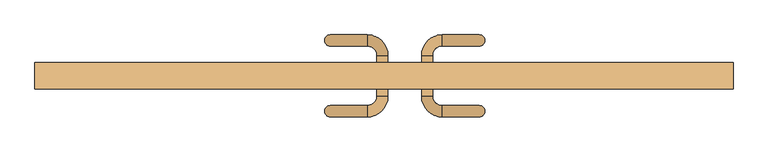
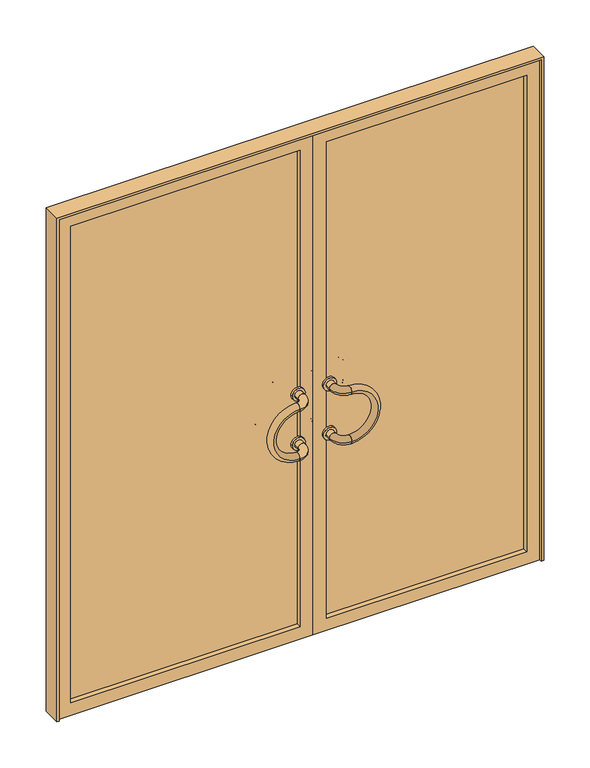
"""IFC4 building model written with IfcOpenShell, lengths in millimetres: door geometry, Tierce Vitrée grand vantail 93 : Double Vitrée."""

from ifc_helpers import new_model, si_unit, point, frame, frame_2d, origin, place, context, project, spatial, polyline, circle_curve, ellipse_curve, trimmed, segment, composite_curve, outline, extrude, source, transform, mapped, element, save
from ifc_brep_helpers import plane_surface, revolved_surface, advanced_brep


def door_b7be11e8(model_context):
    return source(origin(), model_context, "Body", "SolidModel", [
        extrude(outline(composite_curve([segment(trimmed(circle_curve(frame_2d((1000.0, -4.5)), 25.0), [point((1000.0, 20.5))], [point((1000.0, -29.5))], False, "CARTESIAN"), True, "CONTINUOUS"), segment(trimmed(circle_curve(frame_2d((1000.0, -4.5)), 25.0), [point((1000.0, -29.5))], [point((1000.0, 20.5))], False, "CARTESIAN"), True, "CONTINUOUS")], self_intersect=False), holes=[composite_curve([segment(trimmed(circle_curve(frame_2d((1000.0, -4.5)), 15.0), [point((1000.0, 10.5))], [point((1000.0, -19.5))], True, "CARTESIAN"), True, "CONTINUOUS"), segment(trimmed(circle_curve(frame_2d((1000.0, -4.5)), 15.0), [point((1000.0, -19.5))], [point((1000.0, 10.5))], True, "CARTESIAN"), True, "CONTINUOUS")], self_intersect=False)]), frame((0.0, 35.0, 0.0), z_axis=(0.0, 1.0, 0.0), x_axis=(0.0, 0.0, 1.0)), (0.0, 0.0, 1.0), 8.0),
        extrude(outline(composite_curve([segment(trimmed(circle_curve(frame_2d((800.0, -4.5)), 25.0), [point((800.0, 20.5))], [point((800.0, -29.5))], False, "CARTESIAN"), True, "CONTINUOUS"), segment(trimmed(circle_curve(frame_2d((800.0, -4.5)), 25.0), [point((800.0, -29.5))], [point((800.0, 20.5))], False, "CARTESIAN"), True, "CONTINUOUS")], self_intersect=False), holes=[composite_curve([segment(trimmed(circle_curve(frame_2d((800.0, -4.5)), 15.0), [point((800.0, 10.5))], [point((800.0, -19.5))], True, "CARTESIAN"), True, "CONTINUOUS"), segment(trimmed(circle_curve(frame_2d((800.0, -4.5)), 15.0), [point((800.0, -19.5))], [point((800.0, 10.5))], True, "CARTESIAN"), True, "CONTINUOUS")], self_intersect=False)]), frame((0.0, 35.0, 0.0), z_axis=(0.0, 1.0, 0.0), x_axis=(0.0, 0.0, 1.0)), (0.0, 0.0, 1.0), 8.0),
        extrude(outline(composite_curve([segment(trimmed(circle_curve(frame_2d((1000.0, -4.5)), 25.0), [point((1000.0, 20.5))], [point((1000.0, -29.5))], False, "CARTESIAN"), True, "CONTINUOUS"), segment(trimmed(circle_curve(frame_2d((1000.0, -4.5)), 25.0), [point((1000.0, -29.5))], [point((1000.0, 20.5))], False, "CARTESIAN"), True, "CONTINUOUS")], self_intersect=False), holes=[composite_curve([segment(trimmed(circle_curve(frame_2d((1000.0, -4.5)), 15.0), [point((1000.0, 10.5))], [point((1000.0, -19.5))], True, "CARTESIAN"), True, "CONTINUOUS"), segment(trimmed(circle_curve(frame_2d((1000.0, -4.5)), 15.0), [point((1000.0, -19.5))], [point((1000.0, 10.5))], True, "CARTESIAN"), True, "CONTINUOUS")], self_intersect=False)]), frame((0.0, -23.0, 0.0), z_axis=(0.0, 1.0, 0.0), x_axis=(0.0, 0.0, 1.0)), (0.0, 0.0, 1.0), 8.0),
        extrude(outline(composite_curve([segment(trimmed(circle_curve(frame_2d((800.0, -4.5)), 25.0), [point((800.0, 20.5))], [point((800.0, -29.5))], False, "CARTESIAN"), True, "CONTINUOUS"), segment(trimmed(circle_curve(frame_2d((800.0, -4.5)), 25.0), [point((800.0, -29.5))], [point((800.0, 20.5))], False, "CARTESIAN"), True, "CONTINUOUS")], self_intersect=False), holes=[composite_curve([segment(trimmed(circle_curve(frame_2d((800.0, -4.5)), 15.0), [point((800.0, 10.5))], [point((800.0, -19.5))], True, "CARTESIAN"), True, "CONTINUOUS"), segment(trimmed(circle_curve(frame_2d((800.0, -4.5)), 15.0), [point((800.0, -19.5))], [point((800.0, 10.5))], True, "CARTESIAN"), True, "CONTINUOUS")], self_intersect=False)]), frame((0.0, -23.0, 0.0), z_axis=(0.0, 1.0, 0.0), x_axis=(0.0, 0.0, 1.0)), (0.0, 0.0, 1.0), 8.0),
        advanced_brep(
        [(-44.5, 120.0, 1000.0), (-44.5, 90.0, 1000.0), (-44.5, 120.0, 800.0), (-44.5, 90.0, 800.0)],
        [
            (0, 1, circle_curve(frame((-44.5, 105.0, 1000.0), z_axis=(1.0, 0.0, 0.0), x_axis=(0.0, -1.0, 0.0)), 15.0)),
            (1, 0, circle_curve(frame((-44.5, 105.0, 1000.0), z_axis=(1.0, 0.0, 0.0), x_axis=(0.0, -1.0, 0.0)), 15.0)),
            (2, 3, circle_curve(frame((-44.5, 105.0, 800.0), z_axis=(1.0, 0.0, 0.0), x_axis=(0.0, -1.0, 0.0)), 15.0)),
            (3, 2, circle_curve(frame((-44.5, 105.0, 800.0), z_axis=(1.0, 0.0, 0.0), x_axis=(0.0, -1.0, 0.0)), 15.0)),
            (2, 0, circle_curve(frame((-44.5, 120.0, 900.0), z_axis=(0.0, 1.0, 0.0), x_axis=(0.0, 0.0, 1.0)), 100.0)),
            (1, 3, circle_curve(frame((-44.5, 90.0, 900.0), z_axis=(0.0, -1.0, 0.0), x_axis=(0.0, 0.0, 1.0)), 100.0)),
        ],
        [
            plane_surface(frame((-44.5, 105.0, 900.0), z_axis=(1.0, 0.0, 0.0), x_axis=(0.0, 0.0, 1.0))),
            plane_surface(frame((-44.5, 105.0, 900.0), z_axis=(1.0, 0.0, 0.0), x_axis=(0.0, 0.0, -1.0))),
            revolved_surface(trimmed(ellipse_curve(frame((-44.5, 105.0, 1000.0), z_axis=(-1.0, 0.0, 0.0), x_axis=(0.0, -1.0, 0.0)), 15.0, 15.0), [point((-44.5, 120.0, 1000.0))], [point((-44.5, 90.0, 1000.0))], True, "CARTESIAN"), (-44.5, 105.0, 900.0), (0.0, 1.0, 0.0)),
            revolved_surface(trimmed(ellipse_curve(frame((-44.5, 105.0, 1000.0), z_axis=(-1.0, 0.0, 0.0), x_axis=(0.0, -1.0, 0.0)), 15.0, 15.0), [point((-44.5, 90.0, 1000.0))], [point((-44.5, 120.0, 1000.0))], True, "CARTESIAN"), (-44.5, 105.0, 900.0), (0.0, 1.0, 0.0)),
        ],
        [
            (0, [[1, 2]]),
            (1, [[3, 4]]),
            (2, [[-3, 5, -2, 6]]),
            (3, [[-4, -6, -1, -5]]),
        ],
    ),
        advanced_brep(
        [(-19.5, 65.0, 1000.0), (10.5, 65.0, 1000.0), (-44.5, 90.0, 1000.0), (-44.5, 120.0, 1000.0)],
        [
            (0, 1, circle_curve(frame((-4.5, 65.0, 1000.0), z_axis=(0.0, -1.0, 0.0), x_axis=(1.0, 0.0, 0.0)), 15.0)),
            (1, 0, circle_curve(frame((-4.5, 65.0, 1000.0), z_axis=(0.0, -1.0, 0.0), x_axis=(1.0, 0.0, 0.0)), 15.0)),
            (2, 3, circle_curve(frame((-44.5, 105.0, 1000.0), z_axis=(-1.0, 0.0, 0.0), x_axis=(0.0, 1.0, 0.0)), 15.0)),
            (3, 2, circle_curve(frame((-44.5, 105.0, 1000.0), z_axis=(-1.0, 0.0, 0.0), x_axis=(0.0, 1.0, 0.0)), 15.0)),
            (2, 0, circle_curve(frame((-44.5, 65.0, 1000.0), z_axis=(0.0, 0.0, -1.0), x_axis=(1.0, 0.0, 0.0)), 25.0)),
            (1, 3, circle_curve(frame((-44.5, 65.0, 1000.0), z_axis=(0.0, 0.0, 1.0), x_axis=(1.0, 0.0, 0.0)), 55.0)),
        ],
        [
            plane_surface(frame((-44.5, 65.0, 1000.0), z_axis=(0.0, -1.0, 0.0), x_axis=(1.0, 0.0, 0.0))),
            plane_surface(frame((-44.5, 65.0, 1000.0), z_axis=(-1.0, 0.0, 0.0), x_axis=(0.0, 1.0, 0.0))),
            revolved_surface(trimmed(ellipse_curve(frame((-4.5, 65.0, 1000.0), z_axis=(0.0, 1.0, 0.0), x_axis=(1.0, 0.0, 0.0)), 15.0, 15.0), [point((-19.5, 65.0, 1000.0))], [point((10.5, 65.0, 1000.0))], True, "CARTESIAN"), (-44.5, 65.0, 1000.0), (0.0, 0.0, -1.0)),
            revolved_surface(trimmed(ellipse_curve(frame((-4.5, 65.0, 1000.0), z_axis=(0.0, 1.0, 0.0), x_axis=(1.0, 0.0, 0.0)), 15.0, 15.0), [point((10.5, 65.0, 1000.0))], [point((-19.5, 65.0, 1000.0))], True, "CARTESIAN"), (-44.5, 65.0, 1000.0), (0.0, 0.0, -1.0)),
        ],
        [
            (0, [[1, 2]]),
            (1, [[3, 4]]),
            (2, [[-3, 5, -2, 6]]),
            (3, [[-4, -6, -1, -5]]),
        ],
    ),
        advanced_brep(
        [(-19.5, 65.0, 800.0), (10.5, 65.0, 800.0), (-44.5, 90.0, 800.0), (-44.5, 120.0, 800.0)],
        [
            (0, 1, circle_curve(frame((-4.5, 65.0, 800.0), z_axis=(0.0, -1.0, 0.0), x_axis=(1.0, 0.0, 0.0)), 15.0)),
            (1, 0, circle_curve(frame((-4.5, 65.0, 800.0), z_axis=(0.0, -1.0, 0.0), x_axis=(1.0, 0.0, 0.0)), 15.0)),
            (2, 3, circle_curve(frame((-44.5, 105.0, 800.0), z_axis=(-1.0, 0.0, 0.0), x_axis=(0.0, 1.0, 0.0)), 15.0)),
            (3, 2, circle_curve(frame((-44.5, 105.0, 800.0), z_axis=(-1.0, 0.0, 0.0), x_axis=(0.0, 1.0, 0.0)), 15.0)),
            (2, 0, circle_curve(frame((-44.5, 65.0, 800.0), z_axis=(0.0, 0.0, -1.0), x_axis=(1.0, 0.0, 0.0)), 25.0)),
            (1, 3, circle_curve(frame((-44.5, 65.0, 800.0), z_axis=(0.0, 0.0, 1.0), x_axis=(1.0, 0.0, 0.0)), 55.0)),
        ],
        [
            plane_surface(frame((-44.5, 65.0, 1000.0), z_axis=(0.0, -1.0, 0.0), x_axis=(1.0, 0.0, 0.0))),
            plane_surface(frame((-44.5, 65.0, 1000.0), z_axis=(-1.0, 0.0, 0.0), x_axis=(0.0, 1.0, 0.0))),
            revolved_surface(trimmed(ellipse_curve(frame((-4.5, 65.0, 800.0), z_axis=(0.0, 1.0, 0.0), x_axis=(1.0, 0.0, 0.0)), 15.0, 15.0), [point((-19.5, 65.0, 800.0))], [point((10.5, 65.0, 800.0))], True, "CARTESIAN"), (-44.5, 65.0, 1000.0), (0.0, 0.0, -1.0)),
            revolved_surface(trimmed(ellipse_curve(frame((-4.5, 65.0, 800.0), z_axis=(0.0, 1.0, 0.0), x_axis=(1.0, 0.0, 0.0)), 15.0, 15.0), [point((10.5, 65.0, 800.0))], [point((-19.5, 65.0, 800.0))], True, "CARTESIAN"), (-44.5, 65.0, 1000.0), (0.0, 0.0, -1.0)),
        ],
        [
            (0, [[1, 2]]),
            (1, [[3, 4]]),
            (2, [[-3, 5, -2, 6]]),
            (3, [[-4, -6, -1, -5]]),
        ],
    ),
        extrude(outline(composite_curve([segment(trimmed(circle_curve(frame_2d((1000.0, -4.5)), 15.0), [point((1000.0, 10.5))], [point((1000.0, -19.5))], False, "CARTESIAN"), True, "CONTINUOUS"), segment(trimmed(circle_curve(frame_2d((1000.0, -4.5)), 15.0), [point((1000.0, -19.5))], [point((1000.0, 10.5))], False, "CARTESIAN"), True, "CONTINUOUS")], self_intersect=False)), frame((0.0, 35.0, 0.0), z_axis=(0.0, 1.0, 0.0), x_axis=(0.0, 0.0, 1.0)), (0.0, 0.0, 1.0), 30.0),
        extrude(outline(composite_curve([segment(trimmed(circle_curve(frame_2d((800.0, -4.5)), 15.0), [point((800.0, 10.5))], [point((800.0, -19.5))], False, "CARTESIAN"), True, "CONTINUOUS"), segment(trimmed(circle_curve(frame_2d((800.0, -4.5)), 15.0), [point((800.0, -19.5))], [point((800.0, 10.5))], False, "CARTESIAN"), True, "CONTINUOUS")], self_intersect=False)), frame((0.0, 35.0, 0.0), z_axis=(0.0, 1.0, 0.0), x_axis=(0.0, 0.0, 1.0)), (0.0, 0.0, 1.0), 30.0),
        advanced_brep(
        [(-44.5, -70.0, 1000.0), (-44.5, -100.0, 1000.0), (-44.5, -70.0, 800.0), (-44.5, -100.0, 800.0)],
        [
            (0, 1, circle_curve(frame((-44.5, -85.0, 1000.0), z_axis=(1.0, 0.0, 0.0), x_axis=(0.0, -1.0, 0.0)), 15.0)),
            (1, 0, circle_curve(frame((-44.5, -85.0, 1000.0), z_axis=(1.0, 0.0, 0.0), x_axis=(0.0, -1.0, 0.0)), 15.0)),
            (2, 3, circle_curve(frame((-44.5, -85.0, 800.0), z_axis=(1.0, 0.0, 0.0), x_axis=(0.0, -1.0, 0.0)), 15.0)),
            (3, 2, circle_curve(frame((-44.5, -85.0, 800.0), z_axis=(1.0, 0.0, 0.0), x_axis=(0.0, -1.0, 0.0)), 15.0)),
            (2, 0, circle_curve(frame((-44.5, -70.0, 900.0), z_axis=(0.0, 1.0, 0.0), x_axis=(0.0, 0.0, 1.0)), 100.0)),
            (1, 3, circle_curve(frame((-44.5, -100.0, 900.0), z_axis=(0.0, -1.0, 0.0), x_axis=(0.0, 0.0, 1.0)), 100.0)),
        ],
        [
            plane_surface(frame((-44.5, -100.0, 900.0), z_axis=(1.0, 0.0, 0.0), x_axis=(0.0, 0.0, 1.0))),
            plane_surface(frame((-44.5, -100.0, 900.0), z_axis=(1.0, 0.0, 0.0), x_axis=(0.0, 0.0, -1.0))),
            revolved_surface(trimmed(ellipse_curve(frame((-44.5, -85.0, 1000.0), z_axis=(-1.0, 0.0, 0.0), x_axis=(0.0, -1.0, 0.0)), 15.0, 15.0), [point((-44.5, -70.0, 1000.0))], [point((-44.5, -100.0, 1000.0))], True, "CARTESIAN"), (-44.5, -100.0, 900.0), (0.0, 1.0, 0.0)),
            revolved_surface(trimmed(ellipse_curve(frame((-44.5, -85.0, 1000.0), z_axis=(-1.0, 0.0, 0.0), x_axis=(0.0, -1.0, 0.0)), 15.0, 15.0), [point((-44.5, -100.0, 1000.0))], [point((-44.5, -70.0, 1000.0))], True, "CARTESIAN"), (-44.5, -100.0, 900.0), (0.0, 1.0, 0.0)),
        ],
        [
            (0, [[1, 2]]),
            (1, [[3, 4]]),
            (2, [[-3, 5, -2, 6]]),
            (3, [[-4, -6, -1, -5]]),
        ],
    ),
        advanced_brep(
        [(10.5, -45.0, 1000.0), (-19.5, -45.0, 1000.0), (-44.5, -100.0, 1000.0), (-44.5, -70.0, 1000.0)],
        [
            (0, 1, circle_curve(frame((-4.5, -45.0, 1000.0), z_axis=(0.0, 1.0, 0.0), x_axis=(-1.0, 0.0, 0.0)), 15.0)),
            (1, 0, circle_curve(frame((-4.5, -45.0, 1000.0), z_axis=(0.0, 1.0, 0.0), x_axis=(-1.0, 0.0, 0.0)), 15.0)),
            (2, 3, circle_curve(frame((-44.5, -85.0, 1000.0), z_axis=(-1.0, 0.0, 0.0), x_axis=(0.0, 1.0, 0.0)), 15.0)),
            (3, 2, circle_curve(frame((-44.5, -85.0, 1000.0), z_axis=(-1.0, 0.0, 0.0), x_axis=(0.0, 1.0, 0.0)), 15.0)),
            (2, 0, circle_curve(frame((-44.5, -45.0, 1000.0), z_axis=(0.0, 0.0, 1.0), x_axis=(1.0, 0.0, 0.0)), 55.0)),
            (1, 3, circle_curve(frame((-44.5, -45.0, 1000.0), z_axis=(0.0, 0.0, -1.0), x_axis=(1.0, 0.0, 0.0)), 25.0)),
        ],
        [
            plane_surface(frame((-44.5, -45.0, 1000.0), z_axis=(0.0, 1.0, 0.0), x_axis=(1.0, 0.0, 0.0))),
            plane_surface(frame((-44.5, -45.0, 1000.0), z_axis=(-1.0, 0.0, 0.0), x_axis=(0.0, -1.0, 0.0))),
            revolved_surface(trimmed(ellipse_curve(frame((-4.5, -45.0, 1000.0), z_axis=(0.0, -1.0, 0.0), x_axis=(-1.0, 0.0, 0.0)), 15.0, 15.0), [point((10.5, -45.0, 1000.0))], [point((-19.5, -45.0, 1000.0))], True, "CARTESIAN"), (-44.5, -45.0, 1000.0), (0.0, 0.0, 1.0)),
            revolved_surface(trimmed(ellipse_curve(frame((-4.5, -45.0, 1000.0), z_axis=(0.0, -1.0, 0.0), x_axis=(-1.0, 0.0, 0.0)), 15.0, 15.0), [point((-19.5, -45.0, 1000.0))], [point((10.5, -45.0, 1000.0))], True, "CARTESIAN"), (-44.5, -45.0, 1000.0), (0.0, 0.0, 1.0)),
        ],
        [
            (0, [[1, 2]]),
            (1, [[3, 4]]),
            (2, [[-3, 5, -2, 6]]),
            (3, [[-4, -6, -1, -5]]),
        ],
    ),
        advanced_brep(
        [(10.5, -45.0, 800.0), (-19.5, -45.0, 800.0), (-44.5, -100.0, 800.0), (-44.5, -70.0, 800.0)],
        [
            (0, 1, circle_curve(frame((-4.5, -45.0, 800.0), z_axis=(0.0, 1.0, 0.0), x_axis=(-1.0, 0.0, 0.0)), 15.0)),
            (1, 0, circle_curve(frame((-4.5, -45.0, 800.0), z_axis=(0.0, 1.0, 0.0), x_axis=(-1.0, 0.0, 0.0)), 15.0)),
            (2, 3, circle_curve(frame((-44.5, -85.0, 800.0), z_axis=(-1.0, 0.0, 0.0), x_axis=(0.0, 1.0, 0.0)), 15.0)),
            (3, 2, circle_curve(frame((-44.5, -85.0, 800.0), z_axis=(-1.0, 0.0, 0.0), x_axis=(0.0, 1.0, 0.0)), 15.0)),
            (2, 0, circle_curve(frame((-44.5, -45.0, 800.0), z_axis=(0.0, 0.0, 1.0), x_axis=(1.0, 0.0, 0.0)), 55.0)),
            (1, 3, circle_curve(frame((-44.5, -45.0, 800.0), z_axis=(0.0, 0.0, -1.0), x_axis=(1.0, 0.0, 0.0)), 25.0)),
        ],
        [
            plane_surface(frame((-44.5, -45.0, 1000.0), z_axis=(0.0, 1.0, 0.0), x_axis=(1.0, 0.0, 0.0))),
            plane_surface(frame((-44.5, -45.0, 1000.0), z_axis=(-1.0, 0.0, 0.0), x_axis=(0.0, -1.0, 0.0))),
            revolved_surface(trimmed(ellipse_curve(frame((-4.5, -45.0, 800.0), z_axis=(0.0, -1.0, 0.0), x_axis=(-1.0, 0.0, 0.0)), 15.0, 15.0), [point((10.5, -45.0, 800.0))], [point((-19.5, -45.0, 800.0))], True, "CARTESIAN"), (-44.5, -45.0, 1000.0), (0.0, 0.0, 1.0)),
            revolved_surface(trimmed(ellipse_curve(frame((-4.5, -45.0, 800.0), z_axis=(0.0, -1.0, 0.0), x_axis=(-1.0, 0.0, 0.0)), 15.0, 15.0), [point((-19.5, -45.0, 800.0))], [point((10.5, -45.0, 800.0))], True, "CARTESIAN"), (-44.5, -45.0, 1000.0), (0.0, 0.0, 1.0)),
        ],
        [
            (0, [[1, 2]]),
            (1, [[3, 4]]),
            (2, [[-3, 5, -2, 6]]),
            (3, [[-4, -6, -1, -5]]),
        ],
    ),
        extrude(outline(composite_curve([segment(trimmed(circle_curve(frame_2d((1000.0, -4.5)), 15.0), [point((1000.0, 10.5))], [point((1000.0, -19.5))], False, "CARTESIAN"), True, "CONTINUOUS"), segment(trimmed(circle_curve(frame_2d((1000.0, -4.5)), 15.0), [point((1000.0, -19.5))], [point((1000.0, 10.5))], False, "CARTESIAN"), True, "CONTINUOUS")], self_intersect=False)), frame((0.0, -45.0, 0.0), z_axis=(0.0, 1.0, 0.0), x_axis=(0.0, 0.0, 1.0)), (0.0, 0.0, 1.0), 30.0),
        extrude(outline(composite_curve([segment(trimmed(circle_curve(frame_2d((800.0, -4.5)), 15.0), [point((800.0, 10.5))], [point((800.0, -19.5))], False, "CARTESIAN"), True, "CONTINUOUS"), segment(trimmed(circle_curve(frame_2d((800.0, -4.5)), 15.0), [point((800.0, -19.5))], [point((800.0, 10.5))], False, "CARTESIAN"), True, "CONTINUOUS")], self_intersect=False)), frame((0.0, -45.0, 0.0), z_axis=(0.0, 1.0, 0.0), x_axis=(0.0, 0.0, 1.0)), (0.0, 0.0, 1.0), 30.0),
        extrude(outline(composite_curve([segment(trimmed(circle_curve(frame_2d((1000.0, 115.5)), 25.0), [point((1000.0, 90.5))], [point((1000.0, 140.5))], False, "CARTESIAN"), True, "CONTINUOUS"), segment(trimmed(circle_curve(frame_2d((1000.0, 115.5)), 25.0), [point((1000.0, 140.5))], [point((1000.0, 90.5))], False, "CARTESIAN"), True, "CONTINUOUS")], self_intersect=False), holes=[composite_curve([segment(trimmed(circle_curve(frame_2d((1000.0, 115.5)), 15.0), [point((1000.0, 100.5))], [point((1000.0, 130.5))], True, "CARTESIAN"), True, "CONTINUOUS"), segment(trimmed(circle_curve(frame_2d((1000.0, 115.5)), 15.0), [point((1000.0, 130.5))], [point((1000.0, 100.5))], True, "CARTESIAN"), True, "CONTINUOUS")], self_intersect=False)]), frame((0.0, 35.0, 0.0), z_axis=(0.0, 1.0, 0.0), x_axis=(0.0, 0.0, 1.0)), (0.0, 0.0, 1.0), 8.0),
        extrude(outline(composite_curve([segment(trimmed(circle_curve(frame_2d((800.0, 115.5)), 25.0), [point((800.0, 90.5))], [point((800.0, 140.5))], False, "CARTESIAN"), True, "CONTINUOUS"), segment(trimmed(circle_curve(frame_2d((800.0, 115.5)), 25.0), [point((800.0, 140.5))], [point((800.0, 90.5))], False, "CARTESIAN"), True, "CONTINUOUS")], self_intersect=False), holes=[composite_curve([segment(trimmed(circle_curve(frame_2d((800.0, 115.5)), 15.0), [point((800.0, 100.5))], [point((800.0, 130.5))], True, "CARTESIAN"), True, "CONTINUOUS"), segment(trimmed(circle_curve(frame_2d((800.0, 115.5)), 15.0), [point((800.0, 130.5))], [point((800.0, 100.5))], True, "CARTESIAN"), True, "CONTINUOUS")], self_intersect=False)]), frame((0.0, 35.0, 0.0), z_axis=(0.0, 1.0, 0.0), x_axis=(0.0, 0.0, 1.0)), (0.0, 0.0, 1.0), 8.0),
        extrude(outline(composite_curve([segment(trimmed(circle_curve(frame_2d((1000.0, 115.5)), 25.0), [point((1000.0, 90.5))], [point((1000.0, 140.5))], False, "CARTESIAN"), True, "CONTINUOUS"), segment(trimmed(circle_curve(frame_2d((1000.0, 115.5)), 25.0), [point((1000.0, 140.5))], [point((1000.0, 90.5))], False, "CARTESIAN"), True, "CONTINUOUS")], self_intersect=False), holes=[composite_curve([segment(trimmed(circle_curve(frame_2d((1000.0, 115.5)), 15.0), [point((1000.0, 100.5))], [point((1000.0, 130.5))], True, "CARTESIAN"), True, "CONTINUOUS"), segment(trimmed(circle_curve(frame_2d((1000.0, 115.5)), 15.0), [point((1000.0, 130.5))], [point((1000.0, 100.5))], True, "CARTESIAN"), True, "CONTINUOUS")], self_intersect=False)]), frame((0.0, -23.0, 0.0), z_axis=(0.0, 1.0, 0.0), x_axis=(0.0, 0.0, 1.0)), (0.0, 0.0, 1.0), 8.0),
        extrude(outline(composite_curve([segment(trimmed(circle_curve(frame_2d((800.0, 115.5)), 25.0), [point((800.0, 90.5))], [point((800.0, 140.5))], False, "CARTESIAN"), True, "CONTINUOUS"), segment(trimmed(circle_curve(frame_2d((800.0, 115.5)), 25.0), [point((800.0, 140.5))], [point((800.0, 90.5))], False, "CARTESIAN"), True, "CONTINUOUS")], self_intersect=False), holes=[composite_curve([segment(trimmed(circle_curve(frame_2d((800.0, 115.5)), 15.0), [point((800.0, 100.5))], [point((800.0, 130.5))], True, "CARTESIAN"), True, "CONTINUOUS"), segment(trimmed(circle_curve(frame_2d((800.0, 115.5)), 15.0), [point((800.0, 130.5))], [point((800.0, 100.5))], True, "CARTESIAN"), True, "CONTINUOUS")], self_intersect=False)]), frame((0.0, -23.0, 0.0), z_axis=(0.0, 1.0, 0.0), x_axis=(0.0, 0.0, 1.0)), (0.0, 0.0, 1.0), 8.0),
        advanced_brep(
        [(155.5, 120.0, 1000.0), (155.5, 90.0, 1000.0), (155.5, 120.0, 800.0), (155.5, 90.0, 800.0)],
        [
            (0, 1, circle_curve(frame((155.5, 105.0, 1000.0), z_axis=(-1.0, 0.0, 0.0), x_axis=(0.0, -1.0, 0.0)), 15.0)),
            (1, 0, circle_curve(frame((155.5, 105.0, 1000.0), z_axis=(-1.0, 0.0, 0.0), x_axis=(0.0, -1.0, 0.0)), 15.0)),
            (2, 3, circle_curve(frame((155.5, 105.0, 800.0), z_axis=(-1.0, 0.0, 0.0), x_axis=(0.0, -1.0, 0.0)), 15.0)),
            (3, 2, circle_curve(frame((155.5, 105.0, 800.0), z_axis=(-1.0, 0.0, 0.0), x_axis=(0.0, -1.0, 0.0)), 15.0)),
            (3, 1, circle_curve(frame((155.5, 90.0, 900.0), z_axis=(0.0, -1.0, 0.0), x_axis=(0.0, 0.0, 1.0)), 100.0)),
            (0, 2, circle_curve(frame((155.5, 120.0, 900.0), z_axis=(0.0, 1.0, 0.0), x_axis=(0.0, 0.0, 1.0)), 100.0)),
        ],
        [
            plane_surface(frame((155.5, 105.0, 900.0), z_axis=(-1.0, 0.0, 0.0), x_axis=(0.0, 0.0, 1.0))),
            plane_surface(frame((155.5, 105.0, 900.0), z_axis=(-1.0, 0.0, 0.0), x_axis=(0.0, 0.0, -1.0))),
            revolved_surface(trimmed(ellipse_curve(frame((155.5, 105.0, 1000.0), z_axis=(-1.0, 0.0, 0.0), x_axis=(0.0, -1.0, 0.0)), 15.0, 15.0), [point((155.5, 120.0, 1000.0))], [point((155.5, 90.0, 1000.0))], True, "CARTESIAN"), (155.5, 105.0, 900.0), (0.0, 1.0, 0.0)),
            revolved_surface(trimmed(ellipse_curve(frame((155.5, 105.0, 1000.0), z_axis=(-1.0, 0.0, 0.0), x_axis=(0.0, -1.0, 0.0)), 15.0, 15.0), [point((155.5, 90.0, 1000.0))], [point((155.5, 120.0, 1000.0))], True, "CARTESIAN"), (155.5, 105.0, 900.0), (0.0, 1.0, 0.0)),
        ],
        [
            (0, [[1, 2]]),
            (1, [[3, 4]]),
            (2, [[5, -1, 6, -4]]),
            (3, [[-6, -2, -5, -3]]),
        ],
    ),
        advanced_brep(
        [(130.5, 65.0, 1000.0), (100.5, 65.0, 1000.0), (155.5, 90.0, 1000.0), (155.5, 120.0, 1000.0)],
        [
            (0, 1, circle_curve(frame((115.5, 65.0, 1000.0), z_axis=(0.0, -1.0, 0.0), x_axis=(-1.0, 0.0, 0.0)), 15.0)),
            (1, 0, circle_curve(frame((115.5, 65.0, 1000.0), z_axis=(0.0, -1.0, 0.0), x_axis=(-1.0, 0.0, 0.0)), 15.0)),
            (2, 3, circle_curve(frame((155.5, 105.0, 1000.0), z_axis=(1.0, 0.0, 0.0), x_axis=(0.0, 1.0, 0.0)), 15.0)),
            (3, 2, circle_curve(frame((155.5, 105.0, 1000.0), z_axis=(1.0, 0.0, 0.0), x_axis=(0.0, 1.0, 0.0)), 15.0)),
            (3, 1, circle_curve(frame((155.5, 65.0, 1000.0), z_axis=(0.0, 0.0, 1.0), x_axis=(-1.0, 0.0, 0.0)), 55.0)),
            (0, 2, circle_curve(frame((155.5, 65.0, 1000.0), z_axis=(0.0, 0.0, -1.0), x_axis=(-1.0, 0.0, 0.0)), 25.0)),
        ],
        [
            plane_surface(frame((155.5, 65.0, 1000.0), z_axis=(0.0, -1.0, 0.0), x_axis=(-1.0, 0.0, 0.0))),
            plane_surface(frame((155.5, 65.0, 1000.0), z_axis=(1.0, 0.0, 0.0), x_axis=(0.0, 1.0, 0.0))),
            revolved_surface(trimmed(ellipse_curve(frame((115.5, 65.0, 1000.0), z_axis=(0.0, -1.0, 0.0), x_axis=(-1.0, 0.0, 0.0)), 15.0, 15.0), [point((130.5, 65.0, 1000.0))], [point((100.5, 65.0, 1000.0))], True, "CARTESIAN"), (155.5, 65.0, 1000.0), (0.0, 0.0, -1.0)),
            revolved_surface(trimmed(ellipse_curve(frame((115.5, 65.0, 1000.0), z_axis=(0.0, -1.0, 0.0), x_axis=(-1.0, 0.0, 0.0)), 15.0, 15.0), [point((100.5, 65.0, 1000.0))], [point((130.5, 65.0, 1000.0))], True, "CARTESIAN"), (155.5, 65.0, 1000.0), (0.0, 0.0, -1.0)),
        ],
        [
            (0, [[1, 2]]),
            (1, [[3, 4]]),
            (2, [[5, -1, 6, -4]]),
            (3, [[-6, -2, -5, -3]]),
        ],
    ),
        advanced_brep(
        [(130.5, 65.0, 800.0), (100.5, 65.0, 800.0), (155.5, 90.0, 800.0), (155.5, 120.0, 800.0)],
        [
            (0, 1, circle_curve(frame((115.5, 65.0, 800.0), z_axis=(0.0, -1.0, 0.0), x_axis=(-1.0, 0.0, 0.0)), 15.0)),
            (1, 0, circle_curve(frame((115.5, 65.0, 800.0), z_axis=(0.0, -1.0, 0.0), x_axis=(-1.0, 0.0, 0.0)), 15.0)),
            (2, 3, circle_curve(frame((155.5, 105.0, 800.0), z_axis=(1.0, 0.0, 0.0), x_axis=(0.0, 1.0, 0.0)), 15.0)),
            (3, 2, circle_curve(frame((155.5, 105.0, 800.0), z_axis=(1.0, 0.0, 0.0), x_axis=(0.0, 1.0, 0.0)), 15.0)),
            (3, 1, circle_curve(frame((155.5, 65.0, 800.0), z_axis=(0.0, 0.0, 1.0), x_axis=(-1.0, 0.0, 0.0)), 55.0)),
            (0, 2, circle_curve(frame((155.5, 65.0, 800.0), z_axis=(0.0, 0.0, -1.0), x_axis=(-1.0, 0.0, 0.0)), 25.0)),
        ],
        [
            plane_surface(frame((155.5, 65.0, 1000.0), z_axis=(0.0, -1.0, 0.0), x_axis=(-1.0, 0.0, 0.0))),
            plane_surface(frame((155.5, 65.0, 1000.0), z_axis=(1.0, 0.0, 0.0), x_axis=(0.0, 1.0, 0.0))),
            revolved_surface(trimmed(ellipse_curve(frame((115.5, 65.0, 800.0), z_axis=(0.0, -1.0, 0.0), x_axis=(-1.0, 0.0, 0.0)), 15.0, 15.0), [point((130.5, 65.0, 800.0))], [point((100.5, 65.0, 800.0))], True, "CARTESIAN"), (155.5, 65.0, 1000.0), (0.0, 0.0, -1.0)),
            revolved_surface(trimmed(ellipse_curve(frame((115.5, 65.0, 800.0), z_axis=(0.0, -1.0, 0.0), x_axis=(-1.0, 0.0, 0.0)), 15.0, 15.0), [point((100.5, 65.0, 800.0))], [point((130.5, 65.0, 800.0))], True, "CARTESIAN"), (155.5, 65.0, 1000.0), (0.0, 0.0, -1.0)),
        ],
        [
            (0, [[1, 2]]),
            (1, [[3, 4]]),
            (2, [[5, -1, 6, -4]]),
            (3, [[-6, -2, -5, -3]]),
        ],
    ),
        extrude(outline(composite_curve([segment(trimmed(circle_curve(frame_2d((1000.0, 115.5)), 15.0), [point((1000.0, 100.5))], [point((1000.0, 130.5))], False, "CARTESIAN"), True, "CONTINUOUS"), segment(trimmed(circle_curve(frame_2d((1000.0, 115.5)), 15.0), [point((1000.0, 130.5))], [point((1000.0, 100.5))], False, "CARTESIAN"), True, "CONTINUOUS")], self_intersect=False)), frame((0.0, 35.0, 0.0), z_axis=(0.0, 1.0, 0.0), x_axis=(0.0, 0.0, 1.0)), (0.0, 0.0, 1.0), 30.0),
        extrude(outline(composite_curve([segment(trimmed(circle_curve(frame_2d((800.0, 115.5)), 15.0), [point((800.0, 100.5))], [point((800.0, 130.5))], False, "CARTESIAN"), True, "CONTINUOUS"), segment(trimmed(circle_curve(frame_2d((800.0, 115.5)), 15.0), [point((800.0, 130.5))], [point((800.0, 100.5))], False, "CARTESIAN"), True, "CONTINUOUS")], self_intersect=False)), frame((0.0, 35.0, 0.0), z_axis=(0.0, 1.0, 0.0), x_axis=(0.0, 0.0, 1.0)), (0.0, 0.0, 1.0), 30.0),
        advanced_brep(
        [(155.5, -70.0, 1000.0), (155.5, -100.0, 1000.0), (155.5, -70.0, 800.0), (155.5, -100.0, 800.0)],
        [
            (0, 1, circle_curve(frame((155.5, -85.0, 1000.0), z_axis=(-1.0, 0.0, 0.0), x_axis=(0.0, -1.0, 0.0)), 15.0)),
            (1, 0, circle_curve(frame((155.5, -85.0, 1000.0), z_axis=(-1.0, 0.0, 0.0), x_axis=(0.0, -1.0, 0.0)), 15.0)),
            (2, 3, circle_curve(frame((155.5, -85.0, 800.0), z_axis=(-1.0, 0.0, 0.0), x_axis=(0.0, -1.0, 0.0)), 15.0)),
            (3, 2, circle_curve(frame((155.5, -85.0, 800.0), z_axis=(-1.0, 0.0, 0.0), x_axis=(0.0, -1.0, 0.0)), 15.0)),
            (3, 1, circle_curve(frame((155.5, -100.0, 900.0), z_axis=(0.0, -1.0, 0.0), x_axis=(0.0, 0.0, 1.0)), 100.0)),
            (0, 2, circle_curve(frame((155.5, -70.0, 900.0), z_axis=(0.0, 1.0, 0.0), x_axis=(0.0, 0.0, 1.0)), 100.0)),
        ],
        [
            plane_surface(frame((155.5, -100.0, 900.0), z_axis=(-1.0, 0.0, 0.0), x_axis=(0.0, 0.0, 1.0))),
            plane_surface(frame((155.5, -100.0, 900.0), z_axis=(-1.0, 0.0, 0.0), x_axis=(0.0, 0.0, -1.0))),
            revolved_surface(trimmed(ellipse_curve(frame((155.5, -85.0, 1000.0), z_axis=(-1.0, 0.0, 0.0), x_axis=(0.0, -1.0, 0.0)), 15.0, 15.0), [point((155.5, -70.0, 1000.0))], [point((155.5, -100.0, 1000.0))], True, "CARTESIAN"), (155.5, -100.0, 900.0), (0.0, 1.0, 0.0)),
            revolved_surface(trimmed(ellipse_curve(frame((155.5, -85.0, 1000.0), z_axis=(-1.0, 0.0, 0.0), x_axis=(0.0, -1.0, 0.0)), 15.0, 15.0), [point((155.5, -100.0, 1000.0))], [point((155.5, -70.0, 1000.0))], True, "CARTESIAN"), (155.5, -100.0, 900.0), (0.0, 1.0, 0.0)),
        ],
        [
            (0, [[1, 2]]),
            (1, [[3, 4]]),
            (2, [[5, -1, 6, -4]]),
            (3, [[-6, -2, -5, -3]]),
        ],
    ),
        advanced_brep(
        [(100.5, -45.0, 1000.0), (130.5, -45.0, 1000.0), (155.5, -100.0, 1000.0), (155.5, -70.0, 1000.0)],
        [
            (0, 1, circle_curve(frame((115.5, -45.0, 1000.0), z_axis=(0.0, 1.0, 0.0), x_axis=(1.0, 0.0, 0.0)), 15.0)),
            (1, 0, circle_curve(frame((115.5, -45.0, 1000.0), z_axis=(0.0, 1.0, 0.0), x_axis=(1.0, 0.0, 0.0)), 15.0)),
            (2, 3, circle_curve(frame((155.5, -85.0, 1000.0), z_axis=(1.0, 0.0, 0.0), x_axis=(0.0, 1.0, 0.0)), 15.0)),
            (3, 2, circle_curve(frame((155.5, -85.0, 1000.0), z_axis=(1.0, 0.0, 0.0), x_axis=(0.0, 1.0, 0.0)), 15.0)),
            (3, 1, circle_curve(frame((155.5, -45.0, 1000.0), z_axis=(0.0, 0.0, -1.0), x_axis=(-1.0, 0.0, 0.0)), 25.0)),
            (0, 2, circle_curve(frame((155.5, -45.0, 1000.0), z_axis=(0.0, 0.0, 1.0), x_axis=(-1.0, 0.0, 0.0)), 55.0)),
        ],
        [
            plane_surface(frame((155.5, -45.0, 1000.0), z_axis=(0.0, 1.0, 0.0), x_axis=(-1.0, 0.0, 0.0))),
            plane_surface(frame((155.5, -45.0, 1000.0), z_axis=(1.0, 0.0, 0.0), x_axis=(0.0, -1.0, 0.0))),
            revolved_surface(trimmed(ellipse_curve(frame((115.5, -45.0, 1000.0), z_axis=(0.0, 1.0, 0.0), x_axis=(1.0, 0.0, 0.0)), 15.0, 15.0), [point((100.5, -45.0, 1000.0))], [point((130.5, -45.0, 1000.0))], True, "CARTESIAN"), (155.5, -45.0, 1000.0), (0.0, 0.0, 1.0)),
            revolved_surface(trimmed(ellipse_curve(frame((115.5, -45.0, 1000.0), z_axis=(0.0, 1.0, 0.0), x_axis=(1.0, 0.0, 0.0)), 15.0, 15.0), [point((130.5, -45.0, 1000.0))], [point((100.5, -45.0, 1000.0))], True, "CARTESIAN"), (155.5, -45.0, 1000.0), (0.0, 0.0, 1.0)),
        ],
        [
            (0, [[1, 2]]),
            (1, [[3, 4]]),
            (2, [[5, -1, 6, -4]]),
            (3, [[-6, -2, -5, -3]]),
        ],
    ),
        advanced_brep(
        [(100.5, -45.0, 800.0), (130.5, -45.0, 800.0), (155.5, -100.0, 800.0), (155.5, -70.0, 800.0)],
        [
            (0, 1, circle_curve(frame((115.5, -45.0, 800.0), z_axis=(0.0, 1.0, 0.0), x_axis=(1.0, 0.0, 0.0)), 15.0)),
            (1, 0, circle_curve(frame((115.5, -45.0, 800.0), z_axis=(0.0, 1.0, 0.0), x_axis=(1.0, 0.0, 0.0)), 15.0)),
            (2, 3, circle_curve(frame((155.5, -85.0, 800.0), z_axis=(1.0, 0.0, 0.0), x_axis=(0.0, 1.0, 0.0)), 15.0)),
            (3, 2, circle_curve(frame((155.5, -85.0, 800.0), z_axis=(1.0, 0.0, 0.0), x_axis=(0.0, 1.0, 0.0)), 15.0)),
            (3, 1, circle_curve(frame((155.5, -45.0, 800.0), z_axis=(0.0, 0.0, -1.0), x_axis=(-1.0, 0.0, 0.0)), 25.0)),
            (0, 2, circle_curve(frame((155.5, -45.0, 800.0), z_axis=(0.0, 0.0, 1.0), x_axis=(-1.0, 0.0, 0.0)), 55.0)),
        ],
        [
            plane_surface(frame((155.5, -45.0, 1000.0), z_axis=(0.0, 1.0, 0.0), x_axis=(-1.0, 0.0, 0.0))),
            plane_surface(frame((155.5, -45.0, 1000.0), z_axis=(1.0, 0.0, 0.0), x_axis=(0.0, -1.0, 0.0))),
            revolved_surface(trimmed(ellipse_curve(frame((115.5, -45.0, 800.0), z_axis=(0.0, 1.0, 0.0), x_axis=(1.0, 0.0, 0.0)), 15.0, 15.0), [point((100.5, -45.0, 800.0))], [point((130.5, -45.0, 800.0))], True, "CARTESIAN"), (155.5, -45.0, 1000.0), (0.0, 0.0, 1.0)),
            revolved_surface(trimmed(ellipse_curve(frame((115.5, -45.0, 800.0), z_axis=(0.0, 1.0, 0.0), x_axis=(1.0, 0.0, 0.0)), 15.0, 15.0), [point((130.5, -45.0, 800.0))], [point((100.5, -45.0, 800.0))], True, "CARTESIAN"), (155.5, -45.0, 1000.0), (0.0, 0.0, 1.0)),
        ],
        [
            (0, [[1, 2]]),
            (1, [[3, 4]]),
            (2, [[5, -1, 6, -4]]),
            (3, [[-6, -2, -5, -3]]),
        ],
    ),
        extrude(outline(composite_curve([segment(trimmed(circle_curve(frame_2d((1000.0, 115.5)), 15.0), [point((1000.0, 100.5))], [point((1000.0, 130.5))], False, "CARTESIAN"), True, "CONTINUOUS"), segment(trimmed(circle_curve(frame_2d((1000.0, 115.5)), 15.0), [point((1000.0, 130.5))], [point((1000.0, 100.5))], False, "CARTESIAN"), True, "CONTINUOUS")], self_intersect=False)), frame((0.0, -45.0, 0.0), z_axis=(0.0, 1.0, 0.0), x_axis=(0.0, 0.0, 1.0)), (0.0, 0.0, 1.0), 30.0),
        extrude(outline(composite_curve([segment(trimmed(circle_curve(frame_2d((800.0, 115.5)), 15.0), [point((800.0, 100.5))], [point((800.0, 130.5))], False, "CARTESIAN"), True, "CONTINUOUS"), segment(trimmed(circle_curve(frame_2d((800.0, 115.5)), 15.0), [point((800.0, 130.5))], [point((800.0, 100.5))], False, "CARTESIAN"), True, "CONTINUOUS")], self_intersect=False)), frame((0.0, -45.0, 0.0), z_axis=(0.0, 1.0, 0.0), x_axis=(0.0, 0.0, 1.0)), (0.0, 0.0, 1.0), 30.0),
        extrude(outline(polyline([(0.0, -934.5), (0.0, -924.5), (2032.0, -924.5), (2032.0, 924.5), (0.0, 924.5), (0.0, 934.5), (2042.0, 934.5), (2042.0, -934.5), (0.0, -934.5)])), frame((0.0, -25.0, 0.0), z_axis=(0.0, 1.0, 0.0), x_axis=(0.0, 0.0, 1.0)), (0.0, 0.0, 1.0), 70.0),
        extrude(outline(polyline([(874.5, 5.0), (105.5, 5.0), (105.5, 15.0), (874.5, 15.0), (874.5, 5.0)])), frame((0.0, 0.0, 50.0), z_axis=(0.0, 0.0, 1.0), x_axis=(1.0, 0.0, 0.0)), (0.0, 0.0, 1.0), 1932.0),
        extrude(outline(polyline([(0.0, 924.5), (2032.0, 924.5), (2032.0, 55.5), (0.0, 55.5), (0.0, 924.5)]), holes=[polyline([(1982.0, 874.5), (50.0, 874.5), (50.0, 105.5), (1982.0, 105.5), (1982.0, 874.5)])]), frame((0.0, -15.0, 0.0), z_axis=(0.0, 1.0, 0.0), x_axis=(0.0, 0.0, 1.0)), (0.0, 0.0, 1.0), 50.0),
        extrude(outline(polyline([(5.5, 5.0), (-874.5, 5.0), (-874.5, 15.0), (5.5, 15.0), (5.5, 5.0)])), frame((0.0, 0.0, 50.0), z_axis=(0.0, 0.0, 1.0), x_axis=(1.0, 0.0, 0.0)), (0.0, 0.0, 1.0), 1932.0),
        extrude(outline(polyline([(2032.0, 55.5), (2032.0, -924.5), (0.0, -924.5), (0.0, 55.5), (2032.0, 55.5)]), holes=[polyline([(1982.0, 5.5), (50.0, 5.5), (50.0, -874.5), (1982.0, -874.5), (1982.0, 5.5)])]), frame((0.0, -15.0, 0.0), z_axis=(0.0, 1.0, 0.0), x_axis=(0.0, 0.0, 1.0)), (0.0, 0.0, 1.0), 50.0),
    ])


if __name__ == "__main__":
    model = new_model("IFC4")
    model_context = context("Model", 3, world=origin())
    ifc_project = project(units=[si_unit("LENGTHUNIT", "METRE", prefix="MILLI")], contexts=[model_context])
    site = spatial("IfcSite", under=ifc_project)
    building = spatial("IfcBuilding", under=site)
    placement = place(None, origin())
    door_shape = door_b7be11e8(model_context)
    element("IfcDoor", 1, ObjectType="Tierce Vitrée grand vantail 93 : Double Vitrée", at=placement, inside=building, context=model_context, shape_type="MappedRepresentation", body=[
        mapped(door_shape, transform((0.0, 0.0, 0.0), x_axis=(1.0, 0.0, 0.0), y_axis=(0.0, 1.0, 0.0), z_axis=(0.0, 0.0, 1.0))),
    ])
    save(model, "model.ifc")
